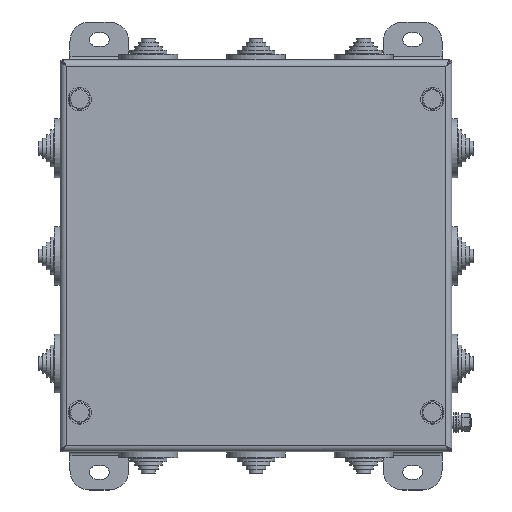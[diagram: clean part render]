
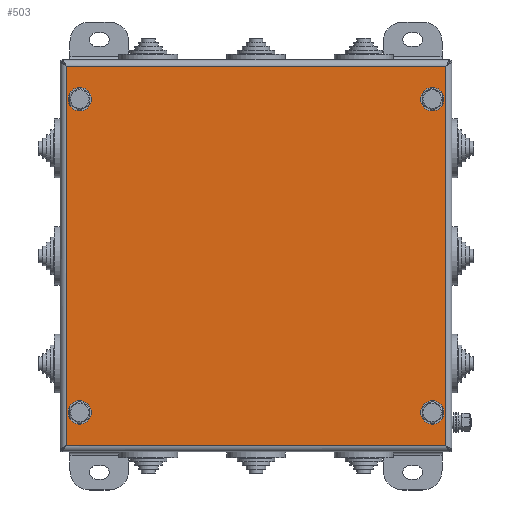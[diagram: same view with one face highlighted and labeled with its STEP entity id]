
A CAD part, top view. The second image highlights one B-rep face of the part: STEP entity #503.
In plain terms, the highlighted planar face has unit normal (0, 0, 1).
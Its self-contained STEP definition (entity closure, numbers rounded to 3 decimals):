
#503=ADVANCED_FACE('',(#22028,#22030,#22032,#22034,#22036),#22038,.T.);
#22028=FACE_BOUND('',#22029,.T.);
#22029=EDGE_LOOP('',(#39544,#39545,#39546,#39547));
#22030=FACE_BOUND('',#22031,.T.);
#22031=EDGE_LOOP('',(#39548));
#22032=FACE_BOUND('',#22033,.T.);
#22033=EDGE_LOOP('',(#39549));
#22034=FACE_BOUND('',#22035,.T.);
#22035=EDGE_LOOP('',(#39550));
#22036=FACE_BOUND('',#22037,.T.);
#22037=EDGE_LOOP('',(#39551));
#22038=PLANE('',#22039);
#22039=AXIS2_PLACEMENT_3D('',#22040,#22041,#22042);
#22040=CARTESIAN_POINT('',(0.,0.,61.5));
#22041=DIRECTION('',(0.,-0.,1.));
#22042=DIRECTION('',(0.,1.,0.));
#39544=ORIENTED_EDGE('',*,*,#54047,.T.);
#39545=ORIENTED_EDGE('',*,*,#54048,.T.);
#39546=ORIENTED_EDGE('',*,*,#54049,.T.);
#39547=ORIENTED_EDGE('',*,*,#54050,.T.);
#39548=ORIENTED_EDGE('',*,*,#54051,.F.);
#39549=ORIENTED_EDGE('',*,*,#54052,.F.);
#39550=ORIENTED_EDGE('',*,*,#53976,.F.);
#39551=ORIENTED_EDGE('',*,*,#54053,.F.);
#53976=EDGE_CURVE('',#60142,#60142,#60143,.T.);
#54047=EDGE_CURVE('',#60276,#60277,#60278,.T.);
#54048=EDGE_CURVE('',#60277,#60279,#60280,.T.);
#54049=EDGE_CURVE('',#60279,#60281,#60282,.T.);
#54050=EDGE_CURVE('',#60281,#60276,#60283,.T.);
#54051=EDGE_CURVE('',#60284,#60284,#60285,.T.);
#54052=EDGE_CURVE('',#60286,#60286,#60287,.T.);
#54053=EDGE_CURVE('',#60288,#60288,#60289,.T.);
#60142=VERTEX_POINT('',#70831);
#60143=CIRCLE('',#70832,6.);
#60276=VERTEX_POINT('',#71137);
#60277=VERTEX_POINT('',#71138);
#60278=LINE('',#71139,#71140);
#60279=VERTEX_POINT('',#71142);
#60280=LINE('',#71143,#71144);
#60281=VERTEX_POINT('',#71146);
#60282=LINE('',#71147,#71148);
#60283=LINE('',#71150,#71151);
#60284=VERTEX_POINT('',#71153);
#60285=CIRCLE('',#71154,6.);
#60286=VERTEX_POINT('',#71158);
#60287=CIRCLE('',#71159,6.);
#60288=VERTEX_POINT('',#71163);
#60289=CIRCLE('',#71164,6.);
#70831=CARTESIAN_POINT('',(-84.,80.,61.5));
#70832=AXIS2_PLACEMENT_3D('',#70833,#70834,#70835);
#70833=CARTESIAN_POINT('',(-90.,80.,61.5));
#70834=DIRECTION('',(0.,-0.,1.));
#70835=DIRECTION('',(1.,0.,0.));
#71137=CARTESIAN_POINT('',(-96.8,96.8,61.5));
#71138=CARTESIAN_POINT('',(-96.8,-96.8,61.5));
#71139=CARTESIAN_POINT('',(-96.8,96.8,61.5));
#71140=VECTOR('',#71141,1.);
#71141=DIRECTION('',(0.,-1.,0.));
#71142=CARTESIAN_POINT('',(96.8,-96.8,61.5));
#71143=CARTESIAN_POINT('',(-96.8,-96.8,61.5));
#71144=VECTOR('',#71145,1.);
#71145=DIRECTION('',(1.,0.,0.));
#71146=CARTESIAN_POINT('',(96.8,96.8,61.5));
#71147=CARTESIAN_POINT('',(96.8,-96.8,61.5));
#71148=VECTOR('',#71149,1.);
#71149=DIRECTION('',(0.,1.,0.));
#71150=CARTESIAN_POINT('',(96.8,96.8,61.5));
#71151=VECTOR('',#71152,1.);
#71152=DIRECTION('',(-1.,0.,0.));
#71153=CARTESIAN_POINT('',(-84.,-80.,61.5));
#71154=AXIS2_PLACEMENT_3D('',#71155,#71156,#71157);
#71155=CARTESIAN_POINT('',(-90.,-80.,61.5));
#71156=DIRECTION('',(0.,-0.,1.));
#71157=DIRECTION('',(1.,0.,0.));
#71158=CARTESIAN_POINT('',(96.,-80.,61.5));
#71159=AXIS2_PLACEMENT_3D('',#71160,#71161,#71162);
#71160=CARTESIAN_POINT('',(90.,-80.,61.5));
#71161=DIRECTION('',(0.,-0.,1.));
#71162=DIRECTION('',(1.,0.,0.));
#71163=CARTESIAN_POINT('',(96.,80.,61.5));
#71164=AXIS2_PLACEMENT_3D('',#71165,#71166,#71167);
#71165=CARTESIAN_POINT('',(90.,80.,61.5));
#71166=DIRECTION('',(0.,-0.,1.));
#71167=DIRECTION('',(1.,0.,0.));
